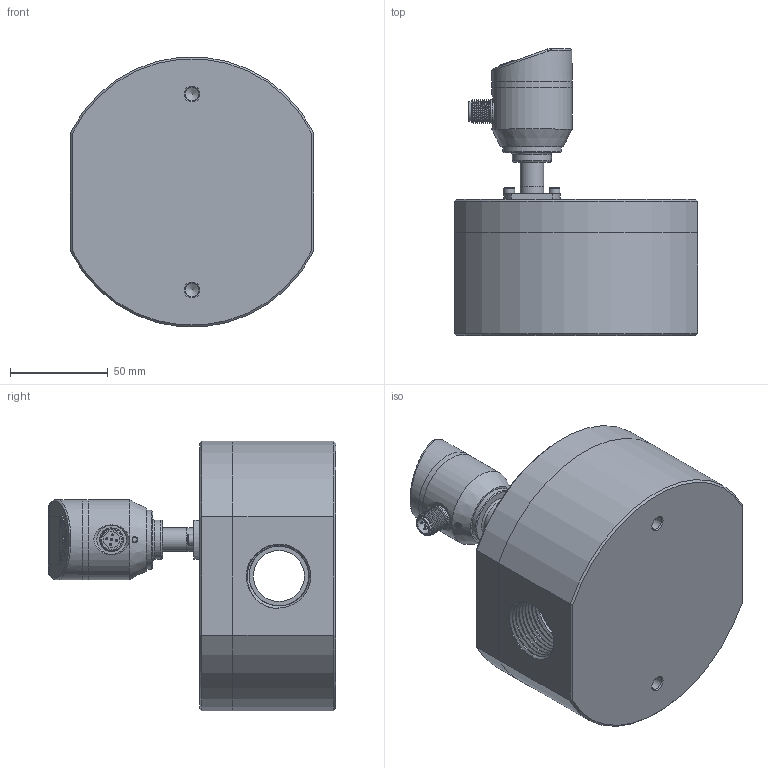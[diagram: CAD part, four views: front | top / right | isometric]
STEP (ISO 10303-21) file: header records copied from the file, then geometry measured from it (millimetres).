
FILE_DESCRIPTION( (''), '2;1');
FILE_NAME( 'QZKA_M25_G1.step', '2024-02-26T10:45:50+08:00', (''), (''), '', '', '');
FILE_SCHEMA (('AUTOMOTIVE_DESIGN { 1 0 10303 214 3 1 1 1 }'));
Length unit declared in the file: millimetre
Products named in the file (1): QZKA M25_G1
Bounding box: 124 x 146.7 x 137.49 mm (x, y, z)
Volume: 951400.6 mm3; surface area: 143845.4 mm2
Topology: 17 solids, 18 shells, 745 faces, 1636 edges, 983 vertices
Faces by surface type: plane 310, cylinder 192, cone 146, torus 59, bspline 32, sphere 6
Full cylindrical faces by diameter (mm): 1 x5, 2.7 x4, 2.874 x2, 3.5 x2, 5.5 x2, 6.8 x10, 7.76 x8, 8 x10, 8.4 x1, 8.5 x8, 9.7 x1, 9.8 x1, 10 x3, 10.1 x1, 11.6 x1, 12 x3, 13 x8, 14 x8, 16.5 x1, 20 x1, 23 x3, 26 x5, 26.1 x1, 30 x1, 37 x1, 41 x3
Entity records: 35741 total; most frequent: CARTESIAN_POINT 19045, DIRECTION 3228, ORIENTED_EDGE 2720, EDGE_CURVE 1360, AXIS2_PLACEMENT_3D 1341, EDGE_LOOP 1018, VERTEX_POINT 922, ADVANCED_FACE 744
